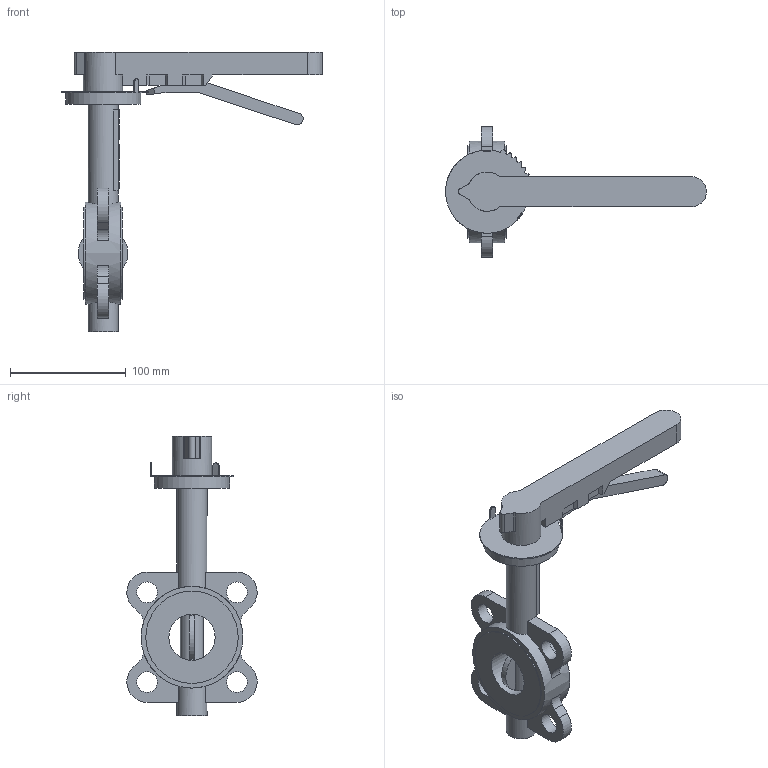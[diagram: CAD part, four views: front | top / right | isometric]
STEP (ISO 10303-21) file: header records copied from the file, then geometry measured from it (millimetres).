
FILE_DESCRIPTION(('STEP AP203'), '1');
FILE_NAME('青蜮铕 017WDN40', '', ('UNSPECIFIED'), ('UNSPECIFIED'), 'ASCON STEP Converter 1.6', 'ASCON Math Kernel', '');
FILE_SCHEMA(('CONFIG_CONTROL_DESIGN'));
Length unit declared in the file: millimetre
Bounding box: 225.97 x 112.73 x 242 mm (x, y, z)
Volume: 154685.8 mm3; surface area: 91345.2 mm2
Topology: 1 solids, 2 shells, 691 faces, 2034 edges, 1310 vertices
Faces by surface type: cylinder 456, plane 235
Full cylindrical faces by diameter (mm): 8 x4, 12.6 x1, 18 x4, 20 x1, 26 x2, 34 x1, 35 x1, 40 x1, 65 x1, 80 x2, 88 x1
Entity records: 29783 total; most frequent: CARTESIAN_POINT 4968, DIRECTION 4349, ORIENTED_EDGE 3969, EDGE_CURVE 2016, AXIS2_PLACEMENT_3D 1664, VERTEX_POINT 1310, LINE 1021, VECTOR 1021
